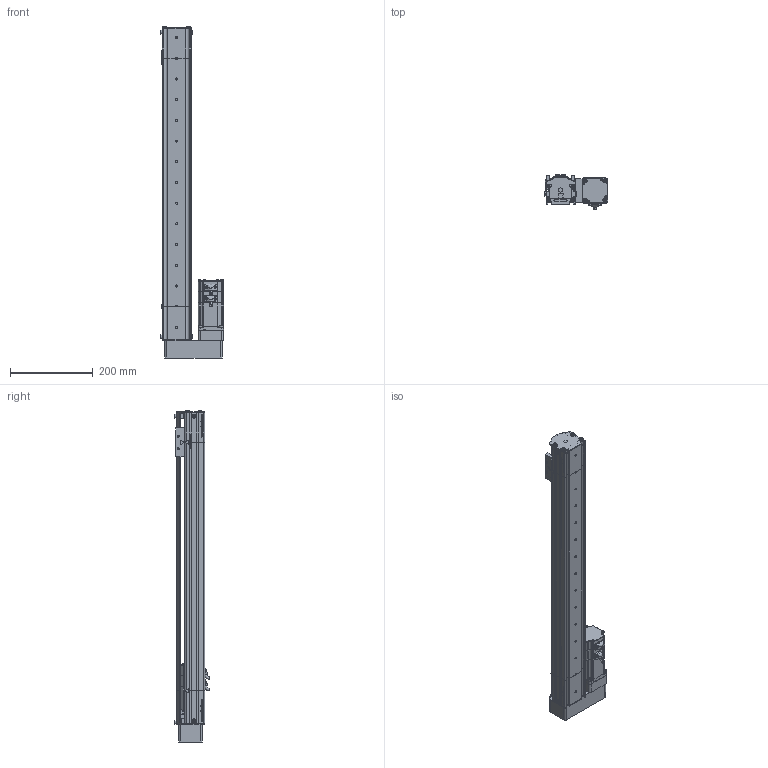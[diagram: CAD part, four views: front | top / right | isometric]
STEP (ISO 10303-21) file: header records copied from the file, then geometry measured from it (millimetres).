
FILE_DESCRIPTION (( 'STEP AP214' ), '1' );
FILE_NAME ('S07 TS BR S600.STEP', '2010-06-29T11:12:32', ( 'Conseil Régional Haute-Normandie' ), ( 'Conseil Régional Haute-Normandie' ), 'SwSTEP 2.0', 'SolidWorks 2010', '' );
FILE_SCHEMA (( 'AUTOMOTIVE_DESIGN' ));
Length unit declared in the file: millimetre
Products named in the file (35): T皻e d''axe Haut 2_Default; arbre S07 moteur; corp moteur BR(124)_Default; P2 90A_Default; couvercle moteur S07 BR(124); vis M5 L12_Default; Plaque racord_Default; plaque de bout BR_Default; P1_Default; Conecteur 60BLDC_Default; Axe 60BLDC_Default; P4_Default; Course 600_Default; Vis M5 L16-2_Default; VisM3_Default; Conecteur2 60BLDC_Default; arbre + rail Course 600 ; Corp S07 course 600_Default; couvercle S07 course 600 ; P3 90A_Default; S07 TS BR S600; vis M5 L5_Default; S07 tail (78)_Default; Chariot; S07 BR(124)_Default; Arbre+rail tail78; guide; rail S07 moteur; chariot_Default; GMB 60 90 310_Default; vis M5 L16_Default; couvercle S07 (78); plaque de bout_Default; T皻e d''axe bas_Default; corp couvert coupé_Default
Assembly tree (61 placements, depth 4):
  S07 TS BR S600
    chariot_Default
      guide
      Chariot
      vis M5 L12_Default  x2
    Course 600_Default
      Corp S07 course 600_Default
      arbre + rail Course 600 
      couvercle S07 course 600 
    S07 tail (78)_Default
      vis M5 L16_Default  x2
      vis M5 L12_Default  x8
      couvercle S07 (78)
      T皻e d''axe Haut 2_Default
      Arbre+rail tail78
      plaque de bout_Default
      corp couvert coupé_Default
      T皻e d''axe bas_Default
    S07 BR(124)_Default
      vis M5 L5_Default  x2
      corp moteur BR(124)_Default
      couvercle moteur S07 BR(124)
      Vis M5 L16-2_Default  x4
      Plaque racord_Default
      arbre S07 moteur
      vis M5 L12_Default  x2
      plaque de bout BR_Default
      GMB 60 90 310_Default
        VisM3_Default  x12
        P4_Default
        Conecteur2 60BLDC_Default
        P3 90A_Default
        P1_Default
        P2 90A_Default
        Conecteur 60BLDC_Default
        Axe 60BLDC_Default
      rail S07 moteur
Bounding box: 152.2 x 83.7 x 802 mm (x, y, z)
Volume: 2036716.2 mm3; surface area: 698263.4 mm2
Topology: 82 solids, 82 shells, 3356 faces, 8460 edges, 5495 vertices
Faces by surface type: plane 1901, bspline 677, cylinder 593, torus 96, cone 89
Entity records: 158316 total; most frequent: CARTESIAN_POINT 73591, ORIENTED_EDGE 14176, DIRECTION 10919, EDGE_CURVE 7088, VERTEX_POINT 4685, LINE 4657, VECTOR 4657, AXIS2_PLACEMENT_3D 3131
